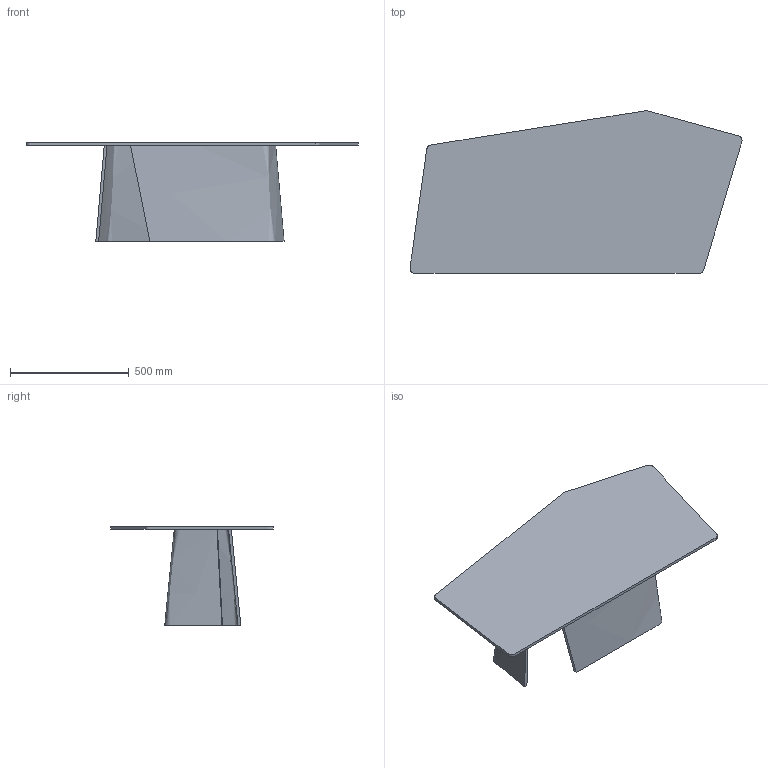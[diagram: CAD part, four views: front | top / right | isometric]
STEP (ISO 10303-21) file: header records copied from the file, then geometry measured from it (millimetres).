
FILE_DESCRIPTION(/* description */ (''),/* implementation_level */ '2;1');
FILE_NAME(/* name */ '500.101 - Accordo Tavolino trapezoidale H42 140x69',/* time_stamp */ '2010-11-03T16:22:31+01:00',/* author */ (''),/* organization */ (''),/* preprocessor_version */ 'ST-DEVELOPER v10',/* originating_system */ '',/* authorisation */ '');
FILE_SCHEMA (('CONFIG_CONTROL_DESIGN'));
Length unit declared in the file: centimetre
Products named in the file (1): 1
Bounding box: 1399.44 x 685.95 x 417 mm (x, y, z)
Volume: 17576430.8 mm3; surface area: 2886511.9 mm2
Topology: 3 solids, 3 shells, 18 faces, 36 edges, 24 vertices
Faces by surface type: bspline 12, plane 6
Entity records: 758 total; most frequent: CARTESIAN_POINT 456, ORIENTED_EDGE 72, EDGE_CURVE 36, VERTEX_POINT 24, ADVANCED_FACE 18, FACE_OUTER_BOUND 18, EDGE_LOOP 18, DIRECTION 10
